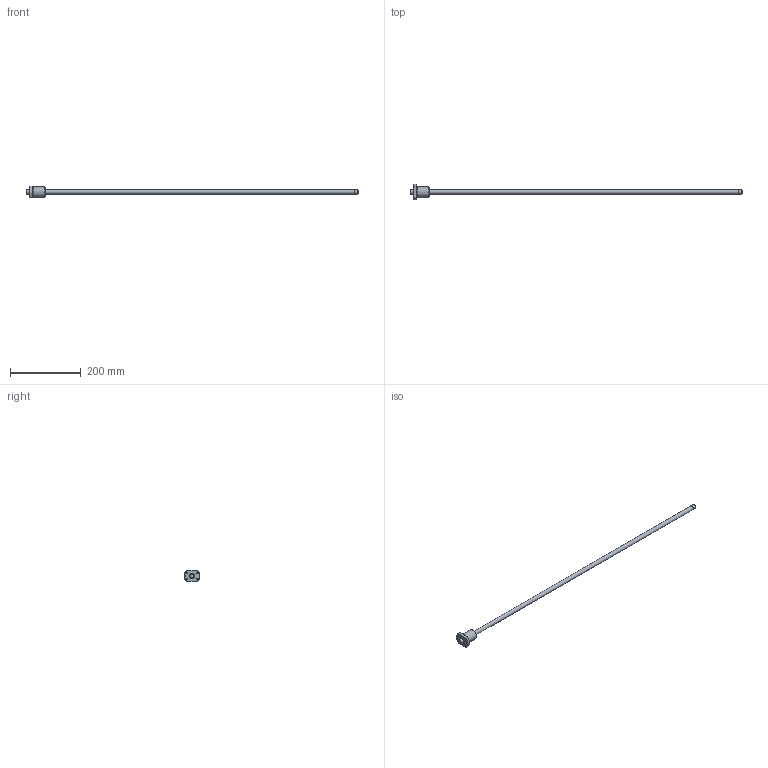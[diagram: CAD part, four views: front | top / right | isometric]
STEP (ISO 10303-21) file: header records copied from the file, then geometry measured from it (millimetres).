
FILE_DESCRIPTION( ( 'STEP AP203' ), ' ' );
FILE_NAME( 'p:/temp/worker_47/1504_1140/app_45_12018011810372739942506818fa3fd_000000_00_00_000000/format_0/BTK 1208V-2.6ZZ+937LT_8730.stp', '2018-01-18T09:37:28', ( '' ), ( '' ), ' ', 'PARTsolutions', ' ' );
FILE_SCHEMA( ( 'CONFIG_CONTROL_DESIGN' ) );
Length unit declared in the file: millimetre
Products named in the file (3): BTK 1208V-2.6ZZ+937LT_8730; _BTK 1208V-2.6873 Shaft; _BTK 1208V-2.6ZZ Nut
Assembly tree (2 placements, depth 2):
  BTK 1208V-2.6ZZ+937LT_8730
    _BTK 1208V-2.6873 Shaft
    _BTK 1208V-2.6ZZ Nut
Bounding box: 937 x 45 x 32 mm (x, y, z)
Volume: 133624.1 mm3; surface area: 44784.7 mm2
Topology: 2 solids, 2 shells, 43 faces, 92 edges, 60 vertices
Faces by surface type: cylinder 20, plane 16, cone 7
Full cylindrical faces by diameter (mm): 3 x3, 4.5 x4, 9.6 x2, 12 x4, 14.4 x2, 26.1 x1, 29 x1
Entity records: 1252 total; most frequent: CARTESIAN_POINT 289, DIRECTION 190, ORIENTED_EDGE 132, AXIS2_PLACEMENT_3D 90, EDGE_LOOP 81, EDGE_CURVE 66, FACE_OUTER_BOUND 59, VERTEX_POINT 55
